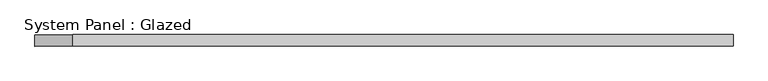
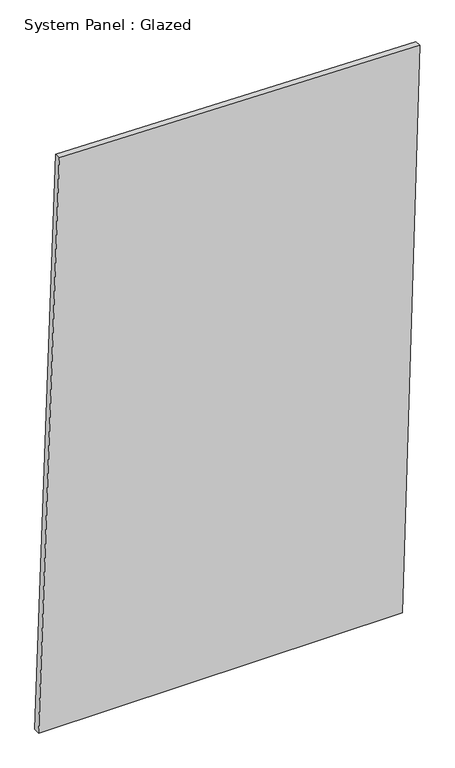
"""IFC4 building model written with IfcOpenShell, lengths in millimetres: plate geometry, System Panel : Glazed."""

from ifc_helpers import new_model, si_unit, frame, origin, place, context, project, spatial, polyline, outline, extrude, source, transform, mapped, element, save


def system_panel_glazed_6b13773f(model_context):
    return source(origin(), model_context, "Body", "SweptSolid", [
        extrude(outline(polyline([(0.0, -761.7374544), (0.0, 691.5664116), (2369.1921576, 761.7374544), (2398.4632022, -678.8056696), (0.0, -761.7374544)])), frame((0.0, -49.5, 0.0), z_axis=(0.0, 1.0, 0.0), x_axis=(0.0, 0.0, 1.0)), (0.0, 0.0, 1.0), 25.0),
    ])


if __name__ == "__main__":
    model = new_model("IFC4")
    model_context = context("Model", 3, world=origin())
    ifc_project = project(units=[si_unit("LENGTHUNIT", "METRE", prefix="MILLI")], contexts=[model_context])
    site = spatial("IfcSite", under=ifc_project)
    building = spatial("IfcBuilding", under=site)
    placement = place(None, origin())
    system_panel_glazed_shape = system_panel_glazed_6b13773f(model_context)
    element("IfcPlate", 1, ObjectType="System Panel : Glazed", at=placement, inside=building, context=model_context, shape_type="MappedRepresentation", body=[
        mapped(system_panel_glazed_shape, transform((0.0, 0.0, 0.0), x_axis=(1.0, 0.0, 0.0), y_axis=(0.0, 1.0, 0.0), z_axis=(0.0, 0.0, 1.0))),
    ])
    save(model, "model.ifc")
